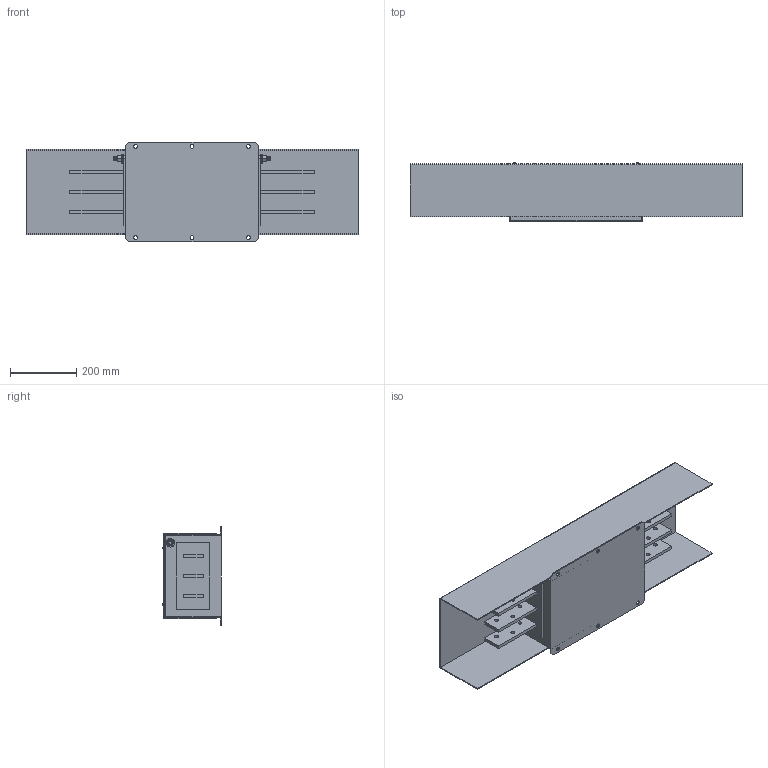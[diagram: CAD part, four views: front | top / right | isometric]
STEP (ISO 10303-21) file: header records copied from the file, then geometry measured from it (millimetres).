
FILE_DESCRIPTION (( 'STEP AP203' ), '1' );
FILE_NAME ('NF-1600-STIE.STEP', '2015-01-20T10:12:39', ( 'Owner' ), ( 'EPA' ), 'SwSTEP 2.0', 'SolidWorks 2007', '' );
FILE_SCHEMA (( 'CONFIG_CONTROL_DESIGN' ));
Length unit declared in the file: millimetre
Products named in the file (8): Pan Cross Head_AM_B18.6.7M - M4 x 0.7 x 8 Type I Cross Recessed PHMS --8N; M12x30 Earth post; NF-1600-STIE; High current protection cover 1600; Formed Hex Screw_AM_B18.2.3.2M - Formed hex screw, M12 x 1.75 x 30 --30CS; Flat Washer Narrow_AM_B18.22M - Plain washer, 12 mm, narrow; Hex Nut Style 1_AM_B18.2.4.1M - Hex nut, Style 1,  M12 x 1.75 --D-N
Assembly tree (12 placements, depth 3):
  NF-1600-STIE
    NF-1600-STIE
    Pan Cross Head_AM_B18.6.7M - M4 x 0.7 x 8 Type I Cross Recessed PHMS --8N  x4
    M12x30 Earth post  x2
      Formed Hex Screw_AM_B18.2.3.2M - Formed hex screw, M12 x 1.75 x 30 --30CS
      Flat Washer Narrow_AM_B18.22M - Plain washer, 12 mm, narrow
      Hex Nut Style 1_AM_B18.2.4.1M - Hex nut, Style 1,  M12 x 1.75 --D-N
    High current protection cover 1600
Bounding box: 1000 x 176.07 x 300 mm (x, y, z)
Volume: 19519306 mm3; surface area: 1781673 mm2
Topology: 14 solids, 14 shells, 584 faces, 1432 edges, 884 vertices
Faces by surface type: cone 204, cylinder 192, plane 168, sphere 12, torus 8
Entity records: 11468 total; most frequent: CARTESIAN_POINT 2011, DIRECTION 1910, ORIENTED_EDGE 1688, EDGE_CURVE 844, AXIS2_PLACEMENT_3D 759, VERTEX_POINT 532, EDGE_LOOP 416, CIRCLE 404
